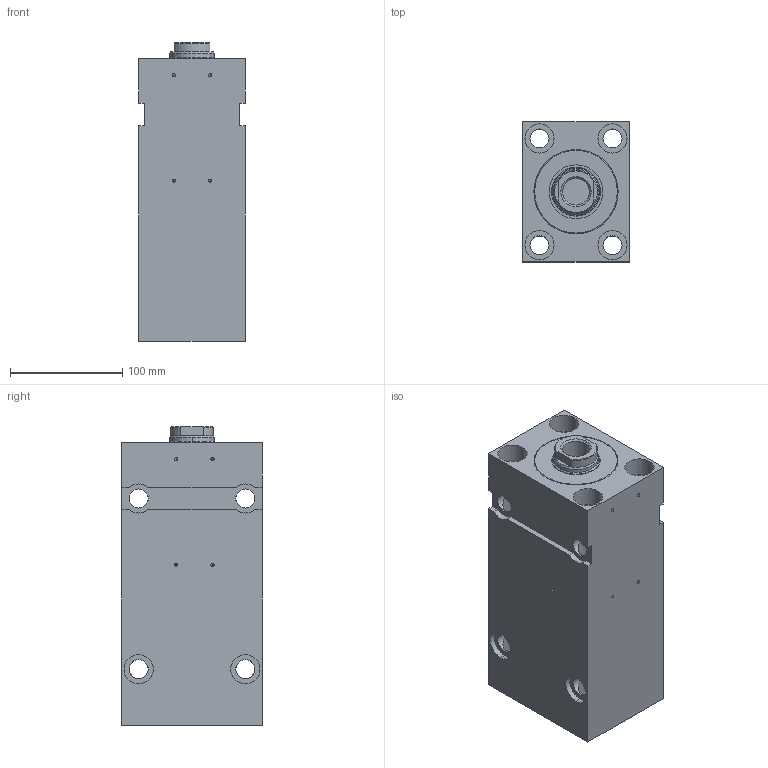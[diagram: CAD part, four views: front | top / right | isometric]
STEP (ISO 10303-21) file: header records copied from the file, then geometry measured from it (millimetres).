
FILE_DESCRIPTION (( 'STEP AP203' ), '1' );
FILE_NAME ('BZ_320.63_40.78.201.140 PP.KBC50__DH_0_.STEP', '2022-05-10T10:29:44', ( '' ), ( '' ), 'SwSTEP 2.0', 'SolidWorks 2020', '' );
FILE_SCHEMA (( 'CONFIG_CONTROL_DESIGN' ));
Length unit declared in the file: millimetre
Products named in the file (7): BZ_320.63_40.78.201.140 PP.KBC50__DH_0_(2)^BZ_320.63_40.78.201.140 PP.KBC50__DH_0_; _Verschraubung komplett mit Dichtung f. BZ_RZ_FZ.63_40.201, Art.-Nr._ 042987(201)^BZ_320.63_40.78.201.140 PP.KBC50__DH_0_(2)_BZ_320.63_40.78.201.140 PP.KBC50__DH_0_; _Verschraubung hinten komplett mit Dichtung f. BZ500.63_40 LLL^BZ_320.63_40.78.201.140 PP.KBC50__DH_0_(2)_BZ_320.63_40.78.201.140 PP.KBC50__DH_0_; _Gehaeuse f. BZ320.63_40.Fehler in IDBF.201.140Fehler in IDNT00(1350frei278000))10^BZ_320.63_40.78.201.140 PP.KBC50__DH_0_(2)_BZ_320.63_40.78.201.140 PP.KBC50__DH_0_; _Kolbenstange komplett f. BZ_RZ_FZ.63_40.xx.201.140(0_11 1 27 3 0 0 14 40 0 0 0)0^BZ_320.63_40.78.201.140 PP.KBC50__DH_0_(2)_BZ_320.63_40.78.201.140 PP.KBC50__DH_0_; _Dichtungssatz f. BZ_RZ_FZ.63_40.xx.201.140 Artikelnr._ 053077(0)^BZ_320.63_40.78.201.140 PP.KBC50__DH_0_(2)_BZ_320.63_40.78.201.140 PP.KBC50__DH_0_; BZ_320.63_40.78.201.140 PP.KBC50__DH_0_
Assembly tree (6 placements, depth 3):
  BZ_320.63_40.78.201.140 PP.KBC50__DH_0_
    BZ_320.63_40.78.201.140 PP.KBC50__DH_0_(2)^BZ_320.63_40.78.201.140 PP.KBC50__DH_0_
      _Gehaeuse f. BZ320.63_40.Fehler in IDBF.201.140Fehler in IDNT00(1350frei278000))10^BZ_320.63_40.78.201.140 PP.KBC50__DH_0_(2)_BZ_320.63_40.78.201.140 PP.KBC50__DH_0_
      _Verschraubung hinten komplett mit Dichtung f. BZ500.63_40 LLL^BZ_320.63_40.78.201.140 PP.KBC50__DH_0_(2)_BZ_320.63_40.78.201.140 PP.KBC50__DH_0_
      _Verschraubung komplett mit Dichtung f. BZ_RZ_FZ.63_40.201, Art.-Nr._ 042987(201)^BZ_320.63_40.78.201.140 PP.KBC50__DH_0_(2)_BZ_320.63_40.78.201.140 PP.KBC50__DH_0_
      _Dichtungssatz f. BZ_RZ_FZ.63_40.xx.201.140 Artikelnr._ 053077(0)^BZ_320.63_40.78.201.140 PP.KBC50__DH_0_(2)_BZ_320.63_40.78.201.140 PP.KBC50__DH_0_
      _Kolbenstange komplett f. BZ_RZ_FZ.63_40.xx.201.140(0_11 1 27 3 0 0 14 40 0 0 0)0^BZ_320.63_40.78.201.140 PP.KBC50__DH_0_(2)_BZ_320.63_40.78.201.140 PP.KBC50__DH_0_
Bounding box: 95 x 125 x 266 mm (x, y, z)
Volume: 2355715.2 mm3; surface area: 331243.5 mm2
Topology: 5 solids, 5 shells, 245 faces, 597 edges, 356 vertices
Faces by surface type: cylinder 150, plane 57, cone 38
Entity records: 8052 total; most frequent: CARTESIAN_POINT 1624, DIRECTION 1259, ORIENTED_EDGE 1146, EDGE_CURVE 573, AXIS2_PLACEMENT_3D 503, VERTEX_POINT 356, EDGE_LOOP 305, LINE 253
